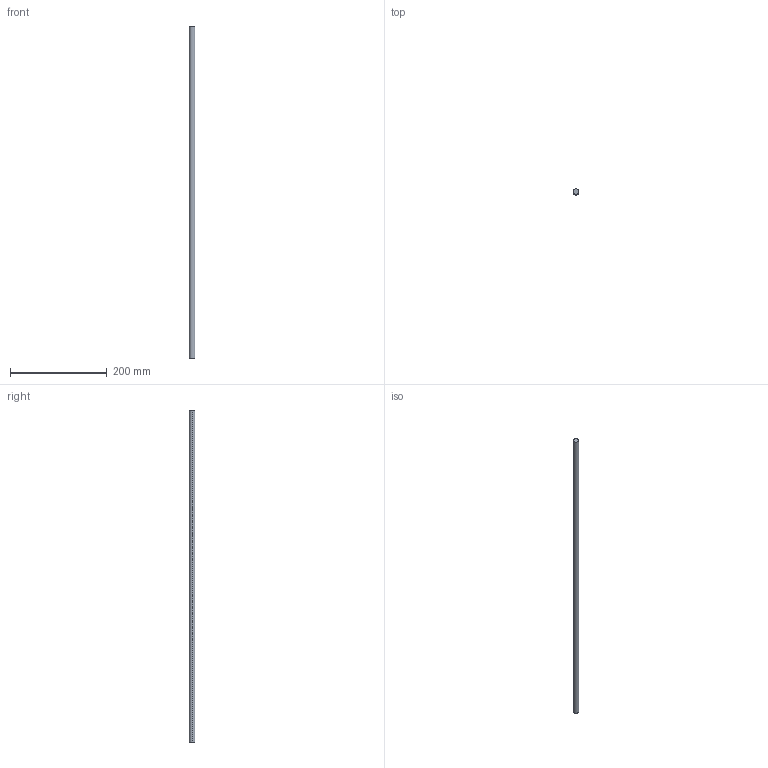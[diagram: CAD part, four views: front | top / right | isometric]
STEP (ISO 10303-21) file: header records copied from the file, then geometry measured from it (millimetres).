
FILE_DESCRIPTION (( 'STEP AP214' ), '1' );
FILE_NAME ('Innenschub H182 - S16_S17 - 800.step', '2010-09-07T14:55:59', ( 'grass' ), ( '' ), 'SwSTEP 2.0', 'SolidWorks 2010', '' );
FILE_SCHEMA (( 'AUTOMOTIVE_DESIGN' ));
Length unit declared in the file: millimetre
Products named in the file (1): Innenschub H182 - S16_S17 - 800
Bounding box: 12 x 12 x 687 mm (x, y, z)
Volume: 77697.9 mm3; surface area: 26125.5 mm2
Topology: 1 solids, 1 shells, 4 faces, 6 edges, 4 vertices
Faces by surface type: cylinder 2, plane 2
Entity records: 128 total; most frequent: DIRECTION 20, CARTESIAN_POINT 15, ORIENTED_EDGE 12, AXIS2_PLACEMENT_3D 9, EDGE_CURVE 6, FACE_OUTER_BOUND 4, CIRCLE 4, EDGE_LOOP 4
